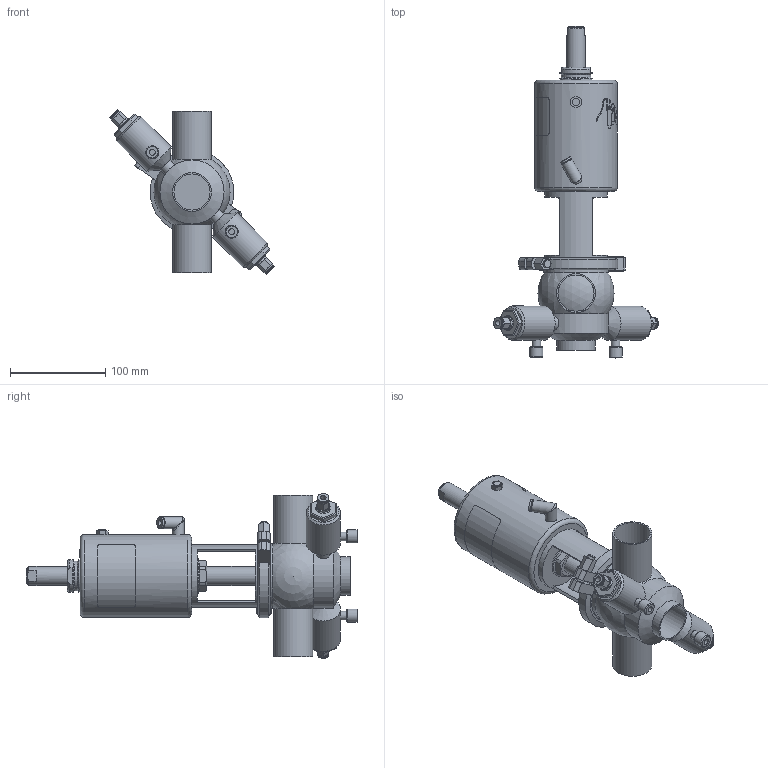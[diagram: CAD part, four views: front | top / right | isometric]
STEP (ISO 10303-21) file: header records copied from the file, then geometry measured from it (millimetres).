
FILE_DESCRIPTION (( 'STEP AP214' ), '1' );
FILE_NAME ('INNOVA D T W DIN 040 T1 AS NC_10.246.16.0002.STEP', '2024-08-08T09:12:39', ( '' ), ( '' ), 'SwSTEP 2.0', 'SolidWorks 2023', '' );
FILE_SCHEMA (( 'AUTOMOTIVE_DESIGN' ));
Length unit declared in the file: millimetre
Products named in the file (5): 10.246.15.0002_DIN 040; 10.240.15.0001_DN 040; INNOVA D T W DIN 040 T1 AS NC_10.246.16.0002; 10.240.15.0014_T1 AS P0; 10.240.15.0010_DN 040
Assembly tree (4 placements, depth 2):
  INNOVA D T W DIN 040 T1 AS NC_10.246.16.0002
    10.246.15.0002_DIN 040
    10.240.15.0010_DN 040
    10.240.15.0014_T1 AS P0
    10.240.15.0001_DN 040
Bounding box: 173.38 x 349 x 173.38 mm (x, y, z)
Volume: 1291684.3 mm3; surface area: 173479.2 mm2
Topology: 4 solids, 4 shells, 424 faces, 1061 edges, 687 vertices
Faces by surface type: plane 225, cylinder 85, bspline 80, cone 27, torus 4, sphere 3
Full cylindrical faces by diameter (mm): 6 x4, 6.15 x1, 8 x3, 8.5 x1, 9 x2, 10 x2, 10.5 x1, 12 x4, 12.5 x3, 14 x4, 15 x2, 16 x1, 20 x2, 31 x1, 34.5 x2, 36 x2, 36.5 x1, 38 x3, 41 x3, 66 x1, 67.5 x2, 79.5 x2, 87 x1
Entity records: 21954 total; most frequent: CARTESIAN_POINT 10948, ORIENTED_EDGE 1928, DIRECTION 1611, EDGE_CURVE 964, VERTEX_POINT 667, AXIS2_PLACEMENT_3D 607, EDGE_LOOP 551, FACE_OUTER_BOUND 479
